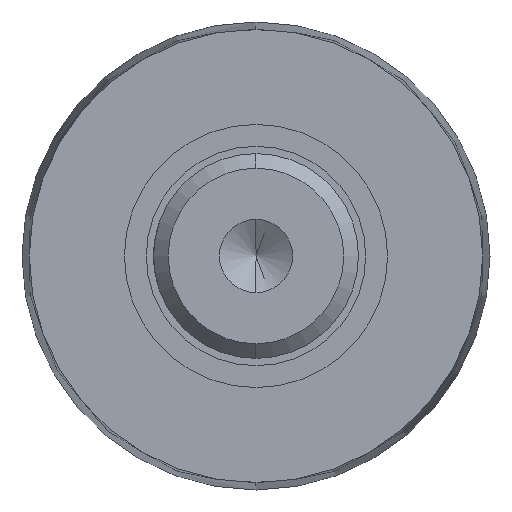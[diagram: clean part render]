
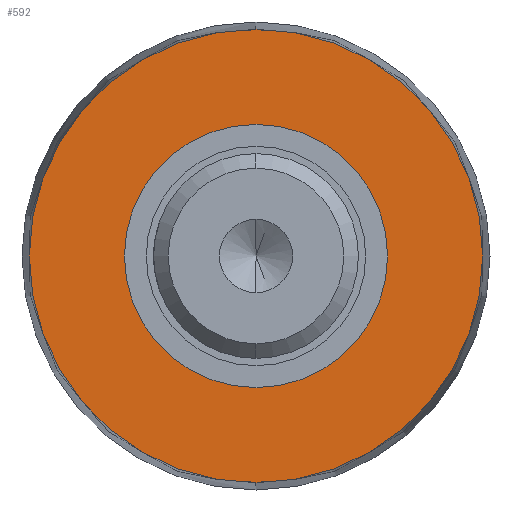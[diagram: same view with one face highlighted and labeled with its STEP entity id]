
A CAD part, left-side view. The second image highlights one B-rep face of the part: STEP entity #592.
In plain terms, the highlighted planar face has unit normal (-1, 0, 0).
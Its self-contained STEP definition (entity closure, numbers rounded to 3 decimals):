
#4 = CARTESIAN_POINT ( 'NONE',  ( 98.5, 0., 9. ) ) ;
#12 = DIRECTION ( 'NONE',  ( 0., 0., -1. ) ) ;
#46 = EDGE_CURVE ( 'NONE', #1174, #51, #1244, .T. ) ;
#51 = VERTEX_POINT ( 'NONE', #4 ) ;
#73 = CARTESIAN_POINT ( 'NONE',  ( 98.5, 0., -15.5 ) ) ;
#75 = CARTESIAN_POINT ( 'NONE',  ( 98.5, 0., 0. ) ) ;
#97 = DIRECTION ( 'NONE',  ( 0., 0., 1. ) ) ;
#119 = CARTESIAN_POINT ( 'NONE',  ( 98.5, 0., 0. ) ) ;
#142 = CIRCLE ( 'NONE', #265, 15.5 ) ;
#190 = DIRECTION ( 'NONE',  ( -1., 0., 0. ) ) ;
#263 = VERTEX_POINT ( 'NONE', #733 ) ;
#265 = AXIS2_PLACEMENT_3D ( 'NONE', #119, #696, #1232 ) ;
#300 = DIRECTION ( 'NONE',  ( -1., 0., 0. ) ) ;
#336 = ORIENTED_EDGE ( 'NONE', *, *, #771, .T. ) ;
#361 = VERTEX_POINT ( 'NONE', #73 ) ;
#393 = FACE_BOUND ( 'NONE', #893, .T. ) ;
#457 = CIRCLE ( 'NONE', #729, 9. ) ;
#546 = EDGE_LOOP ( 'NONE', ( #1213, #336 ) ) ;
#562 = ORIENTED_EDGE ( 'NONE', *, *, #46, .T. ) ;
#582 = EDGE_CURVE ( 'NONE', #51, #1174, #457, .T. ) ;
#592 = ADVANCED_FACE ( 'NONE', ( #393, #711 ), #1303, .T. ) ;
#614 = ORIENTED_EDGE ( 'NONE', *, *, #582, .T. ) ;
#670 = AXIS2_PLACEMENT_3D ( 'NONE', #904, #300, #97 ) ;
#684 = DIRECTION ( 'NONE',  ( 0., 0., 1. ) ) ;
#696 = DIRECTION ( 'NONE',  ( -1., 0., 0. ) ) ;
#699 = EDGE_CURVE ( 'NONE', #361, #263, #142, .T. ) ;
#711 = FACE_OUTER_BOUND ( 'NONE', #546, .T. ) ;
#727 = AXIS2_PLACEMENT_3D ( 'NONE', #813, #1130, #12 ) ;
#729 = AXIS2_PLACEMENT_3D ( 'NONE', #75, #764, #877 ) ;
#733 = CARTESIAN_POINT ( 'NONE',  ( 98.5, 0., 15.5 ) ) ;
#764 = DIRECTION ( 'NONE',  ( 1., 0., 0. ) ) ;
#771 = EDGE_CURVE ( 'NONE', #263, #361, #1110, .T. ) ;
#813 = CARTESIAN_POINT ( 'NONE',  ( 98.5, 0., 0. ) ) ;
#877 = DIRECTION ( 'NONE',  ( 0., 0., -1. ) ) ;
#893 = EDGE_LOOP ( 'NONE', ( #562, #614 ) ) ;
#904 = CARTESIAN_POINT ( 'NONE',  ( 98.5, 0., 0. ) ) ;
#1110 = CIRCLE ( 'NONE', #670, 15.5 ) ;
#1115 = CARTESIAN_POINT ( 'NONE',  ( 98.5, 0., -9. ) ) ;
#1116 = AXIS2_PLACEMENT_3D ( 'NONE', #1197, #190, #684 ) ;
#1130 = DIRECTION ( 'NONE',  ( 1., 0., 0. ) ) ;
#1174 = VERTEX_POINT ( 'NONE', #1115 ) ;
#1197 = CARTESIAN_POINT ( 'NONE',  ( 98.5, 16., 0. ) ) ;
#1213 = ORIENTED_EDGE ( 'NONE', *, *, #699, .T. ) ;
#1232 = DIRECTION ( 'NONE',  ( 0., 0., 1. ) ) ;
#1244 = CIRCLE ( 'NONE', #727, 9. ) ;
#1303 = PLANE ( 'NONE',  #1116 ) ;
